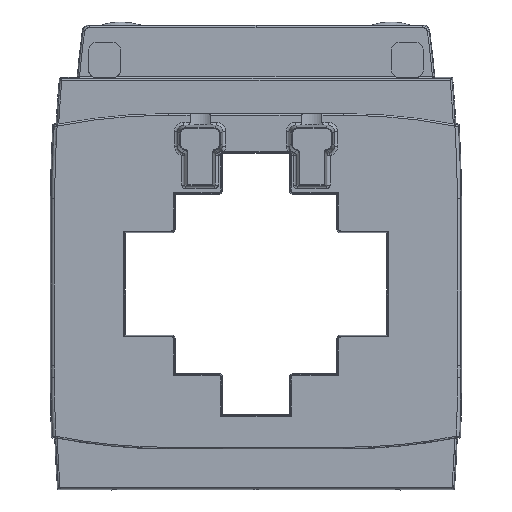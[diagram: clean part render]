
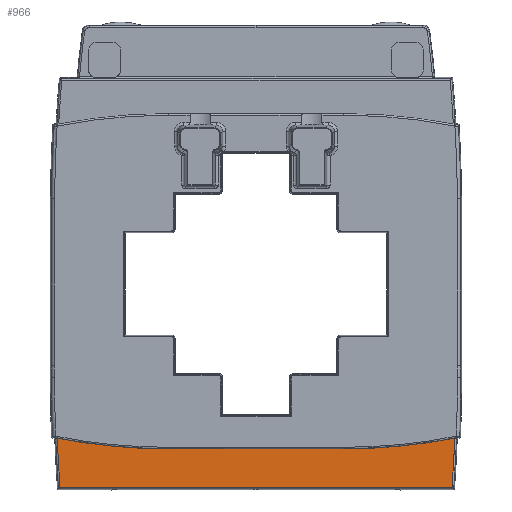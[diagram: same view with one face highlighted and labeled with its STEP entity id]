
A CAD part, front view. The second image highlights one B-rep face of the part: STEP entity #966.
In plain terms, the highlighted planar face has unit normal (0, -1, 0).
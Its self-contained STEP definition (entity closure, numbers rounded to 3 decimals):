
#569=CIRCLE('',#9219,375.154);
#570=CIRCLE('',#9222,375.154);
#966=ADVANCED_FACE('',(#1648),#1362,.T.);
#1362=PLANE('',#9223);
#1648=FACE_OUTER_BOUND('',#2183,.T.);
#2183=EDGE_LOOP('',(#4925,#4926,#4927,#4928,#4929,#4930));
#2767=LINE('',#14149,#3317);
#2790=LINE('',#14236,#3340);
#3317=VECTOR('',#10727,1.);
#3340=VECTOR('',#10784,1.);
#4925=ORIENTED_EDGE('',*,*,#7882,.T.);
#4926=ORIENTED_EDGE('',*,*,#7919,.F.);
#4927=ORIENTED_EDGE('',*,*,#7920,.F.);
#4928=ORIENTED_EDGE('',*,*,#7917,.F.);
#4929=ORIENTED_EDGE('',*,*,#7921,.F.);
#4930=ORIENTED_EDGE('',*,*,#7922,.T.);
#6893=VERTEX_POINT('',#14148);
#6894=VERTEX_POINT('',#14150);
#6920=VERTEX_POINT('',#14235);
#6921=VERTEX_POINT('',#14237);
#6922=VERTEX_POINT('',#14244);
#6923=VERTEX_POINT('',#14247);
#7882=EDGE_CURVE('',#6894,#6893,#2767,.T.);
#7917=EDGE_CURVE('',#6920,#6921,#2790,.T.);
#7919=EDGE_CURVE('',#6922,#6893,#569,.T.);
#7920=EDGE_CURVE('',#6921,#6922,#8756,.T.);
#7921=EDGE_CURVE('',#6923,#6920,#8757,.T.);
#7922=EDGE_CURVE('',#6923,#6894,#570,.T.);
#8756=ELLIPSE('',#9220,181.08,181.053);
#8757=ELLIPSE('',#9221,181.079,181.052);
#9219=AXIS2_PLACEMENT_3D('',#14243,#10787,#10788);
#9220=AXIS2_PLACEMENT_3D('',#14245,#10789,#10790);
#9221=AXIS2_PLACEMENT_3D('',#14246,#10791,#10792);
#9222=AXIS2_PLACEMENT_3D('',#14248,#10793,#10794);
#9223=AXIS2_PLACEMENT_3D('',#14249,#10795,#10796);
#10727=DIRECTION('',(1.,0.,0.));
#10784=DIRECTION('',(1.,0.,0.));
#10787=DIRECTION('',(0.,1.,0.));
#10788=DIRECTION('',(0.,0.,1.));
#10789=DIRECTION('',(0.,-1.,0.));
#10790=DIRECTION('',(0.134,0.,-0.991));
#10791=DIRECTION('',(0.,-1.,0.));
#10792=DIRECTION('',(-0.067,0.,-0.998));
#10793=DIRECTION('',(0.,-1.,0.));
#10794=DIRECTION('',(0.,0.,1.));
#10795=DIRECTION('',(0.,-1.,0.));
#10796=DIRECTION('',(0.,0.,-1.));
#14148=CARTESIAN_POINT('',(61.01,-18.5,-63.338));
#14149=CARTESIAN_POINT('',(3.036,-18.5,-63.338));
#14150=CARTESIAN_POINT('',(-61.01,-18.5,-63.338));
#14235=CARTESIAN_POINT('',(-27.3,-18.5,-51.356));
#14236=CARTESIAN_POINT('',(32.136,-18.5,-51.355));
#14237=CARTESIAN_POINT('',(27.3,-18.5,-51.356));
#14243=CARTESIAN_POINT('',(-313.077,-18.5,-35.063));
#14244=CARTESIAN_POINT('',(61.853,-18.5,-48.02));
#14245=CARTESIAN_POINT('',(27.225,-18.5,129.719));
#14246=CARTESIAN_POINT('',(-27.233,-18.5,129.719));
#14247=CARTESIAN_POINT('',(-61.853,-18.5,-48.02));
#14248=CARTESIAN_POINT('',(313.077,-18.5,-35.063));
#14249=CARTESIAN_POINT('',(3.036,-18.5,-21.442));
